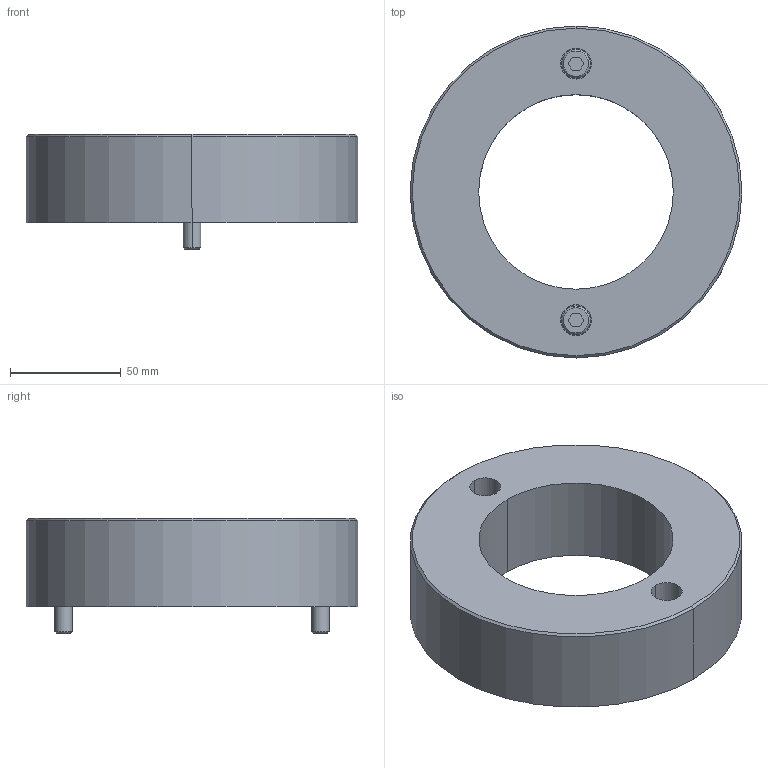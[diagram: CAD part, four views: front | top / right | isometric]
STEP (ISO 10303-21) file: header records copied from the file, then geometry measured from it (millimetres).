
FILE_DESCRIPTION((''),'2;1');
FILE_NAME('','2010-08-30T17:19:37+09:00',('misumi'),(''),'M/STEP i/f 1R2-14','CADmeister v5.1','');
FILE_SCHEMA(('AUTOMOTIVE_DESIGN'));
Length unit declared in the file: millimetre
Products named in the file (1): GEB80-40-N
Bounding box: 150 x 150 x 52 mm (x, y, z)
Volume: 459130.2 mm3; surface area: 58304.2 mm2
Topology: 3 solids, 3 shells, 54 faces, 116 edges, 74 vertices
Faces by surface type: plane 24, cylinder 20, cone 10
Entity records: 1592 total; most frequent: DIRECTION 276, CARTESIAN_POINT 245, ORIENTED_EDGE 232, EDGE_CURVE 116, AXIS2_PLACEMENT_3D 105, VERTEX_POINT 74, LINE 66, VECTOR 66
